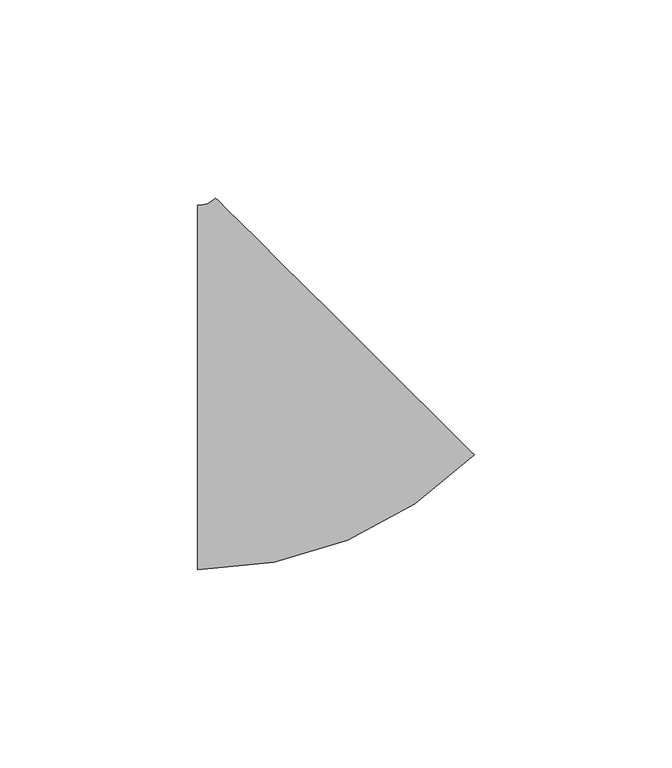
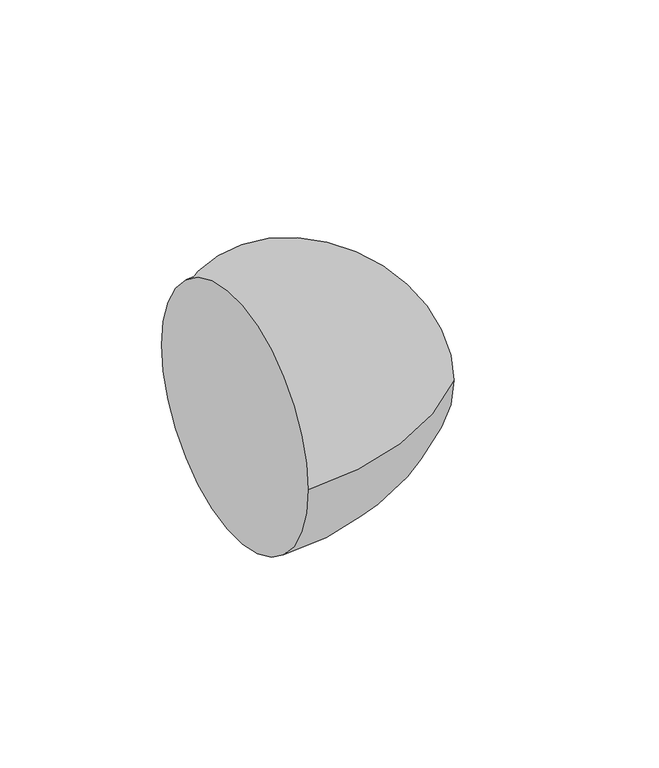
"""IFC4 building model written with IfcOpenShell, lengths in millimetres: pipe fitting geometry, M_Codo - Genérico : Estándar."""

from ifc_helpers import new_model, si_unit, point, frame, origin, place, context, project, spatial, circle_curve, ellipse_curve, trimmed, source, transform, mapped, element, save
from ifc_brep_helpers import plane_surface, revolved_surface, advanced_brep


def pipe_fitting_850c79cb(model_context):
    return source(origin(), model_context, "Body", "AdvancedBrep", [
        advanced_brep(
        [(-21.809498, -46.0375, 0.0), (-21.809498, 46.0375, 0.0), (48.0360639, -16.960017, 0.0), (-17.3033327, 47.9134666, 0.0)],
        [
            (0, 1, circle_curve(frame((-21.809498, 0.0, 0.0), z_axis=(-1.0, 0.0, 0.0), x_axis=(0.0, 1.0, 0.0)), 46.0375)),
            (1, 0, circle_curve(frame((-21.809498, 0.0, 0.0), z_axis=(-1.0, 0.0, 0.0), x_axis=(0.0, 1.0, 0.0)), 46.0375)),
            (2, 3, circle_curve(frame((15.3663656, 15.4767248, 0.0), z_axis=(0.7045721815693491, 0.7096323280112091, 0.0), x_axis=(-0.7096323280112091, 0.7045721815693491, 0.0)), 46.0375)),
            (3, 2, circle_curve(frame((15.3663656, 15.4767248, 0.0), z_axis=(0.7045721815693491, 0.7096323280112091, 0.0), x_axis=(-0.7096323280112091, 0.7045721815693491, 0.0)), 46.0375)),
            (3, 1, circle_curve(frame((-21.809498, 52.3875, 0.0), z_axis=(0.0, 0.0, -1.0), x_axis=(0.0, -1.0, 0.0)), 6.35)),
            (0, 2, circle_curve(frame((-21.809498, 52.3875, 0.0), z_axis=(0.0, 0.0, 1.0), x_axis=(0.0, -1.0, 0.0)), 98.425)),
        ],
        [
            plane_surface(frame((-21.809498, 0.0, 0.0), z_axis=(-1.0, 0.0, 0.0), x_axis=(0.0, 0.0, 1.0))),
            plane_surface(frame((15.3663656, 15.4767248, 0.0), z_axis=(0.7045721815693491, 0.7096323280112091, 0.0), x_axis=(0.0, 0.0, 1.0))),
            revolved_surface(trimmed(ellipse_curve(frame((-21.809498, 0.0, 0.0), z_axis=(-1.0, 0.0, 0.0), x_axis=(0.0, 1.0, 0.0)), 46.0375, 46.0375), [point((-21.809498, -46.0375, 0.0))], [point((-21.809498, 46.0375, 0.0))], True, "CARTESIAN"), (-21.809498, 52.3875, 0.0), (0.0, 0.0, 1.0)),
            revolved_surface(trimmed(ellipse_curve(frame((-21.809498, 0.0, 0.0), z_axis=(-1.0, 0.0, 0.0), x_axis=(0.0, 1.0, 0.0)), 46.0375, 46.0375), [point((-21.809498, 46.0375, 0.0))], [point((-21.809498, -46.0375, 0.0))], True, "CARTESIAN"), (-21.809498, 52.3875, 0.0), (0.0, 0.0, 1.0)),
        ],
        [
            (0, [[1, 2]]),
            (1, [[3, 4]]),
            (2, [[5, -1, 6, -4]]),
            (3, [[-6, -2, -5, -3]]),
        ],
    ),
    ])


if __name__ == "__main__":
    model = new_model("IFC4")
    model_context = context("Model", 3, world=origin())
    ifc_project = project(units=[si_unit("LENGTHUNIT", "METRE", prefix="MILLI")], contexts=[model_context])
    site = spatial("IfcSite", under=ifc_project)
    building = spatial("IfcBuilding", under=site)
    placement = place(None, origin())
    pipe_fitting_shape = pipe_fitting_850c79cb(model_context)
    element("IfcPipeFitting", 1, ObjectType="M_Codo - Genérico : Estándar", at=placement, inside=building, context=model_context, shape_type="MappedRepresentation", body=[
        mapped(pipe_fitting_shape, transform((0.0, 0.0, 0.0), x_axis=(1.0, 0.0, 0.0), y_axis=(0.0, 1.0, 0.0), z_axis=(0.0, 0.0, 1.0))),
    ])
    save(model, "model.ifc")
